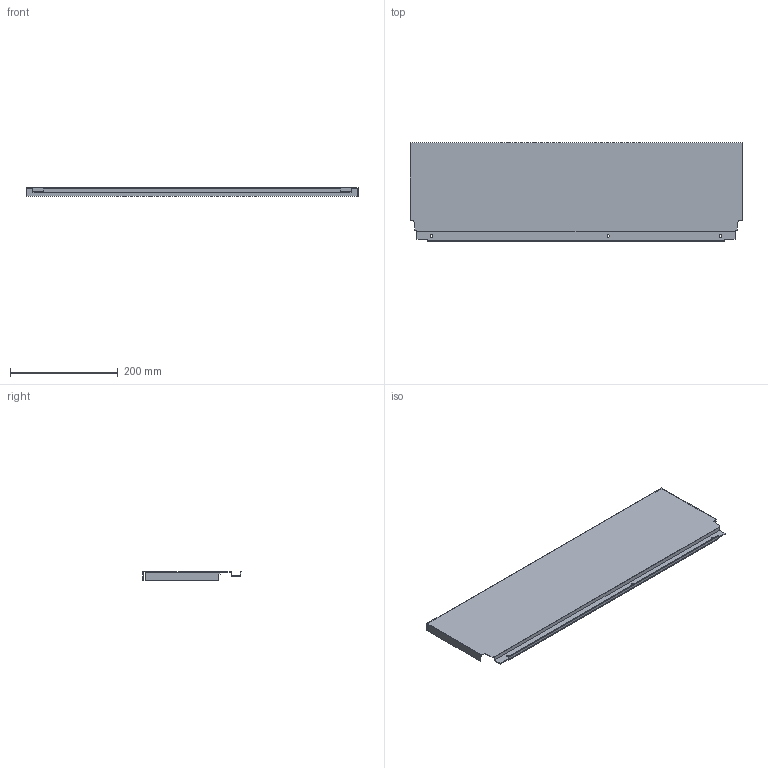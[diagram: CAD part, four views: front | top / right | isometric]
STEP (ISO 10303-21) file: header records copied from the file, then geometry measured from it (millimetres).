
FILE_DESCRIPTION (( 'STEP AP214' ), '1' );
FILE_NAME ('_DWD_XP Stahlrückwand_H182_KAB700_S16.step', '2010-07-08T12:57:35', ( 'grass' ), ( '' ), 'SwSTEP 2.0', 'SolidWorks 2010', '' );
FILE_SCHEMA (( 'AUTOMOTIVE_DESIGN' ));
Length unit declared in the file: millimetre
Products named in the file (1): _DWD_XP Stahlrückwand_H182_KAB700_S16
Bounding box: 617 x 182.49 x 16 mm (x, y, z)
Volume: 116116.6 mm3; surface area: 269034 mm2
Topology: 1 solids, 1 shells, 46 faces, 132 edges, 88 vertices
Faces by surface type: plane 40, cylinder 6
Entity records: 1534 total; most frequent: CARTESIAN_POINT 267, ORIENTED_EDGE 264, DIRECTION 238, EDGE_CURVE 132, LINE 120, VECTOR 120, VERTEX_POINT 88, AXIS2_PLACEMENT_3D 59
